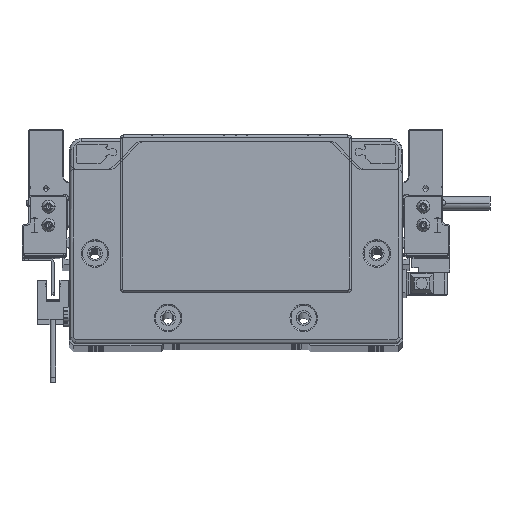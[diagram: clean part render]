
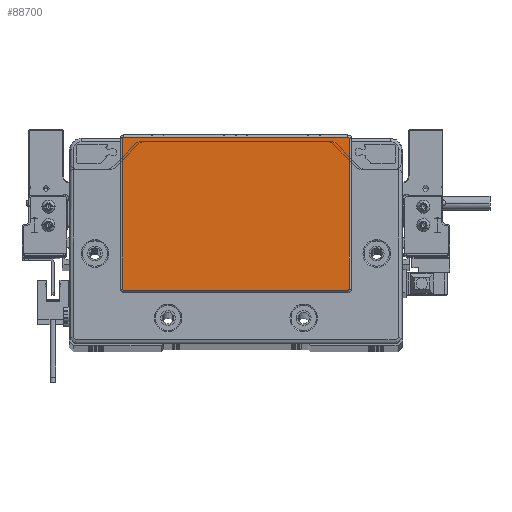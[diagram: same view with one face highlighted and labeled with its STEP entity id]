
A CAD part, top view. The second image highlights one B-rep face of the part: STEP entity #88700.
In plain terms, the highlighted planar face has unit normal (0, 0, 1) as drawn and (0, 0, -1) by its records, which use the part's own axes.
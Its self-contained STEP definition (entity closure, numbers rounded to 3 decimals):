
#2685 = LINE ( 'NONE', #66620, #69438 ) ;
#4043 = VERTEX_POINT ( 'NONE', #31423 ) ;
#5334 = VERTEX_POINT ( 'NONE', #97034 ) ;
#11721 = AXIS2_PLACEMENT_3D ( 'NONE', #86271, #47534, #70573 ) ;
#13782 = PLANE ( 'NONE',  #76260 ) ;
#15593 = CARTESIAN_POINT ( 'NONE',  ( 48.75, 44.3, -2. ) ) ;
#15833 = CARTESIAN_POINT ( 'NONE',  ( 49.25, -21.8, -2. ) ) ;
#16437 = EDGE_CURVE ( 'NONE', #76308, #101200, #93057, .T. ) ;
#16710 = CIRCLE ( 'NONE', #11721, 0.5 ) ;
#16849 = CARTESIAN_POINT ( 'NONE',  ( -48.75, -22.3, -2. ) ) ;
#17152 = VERTEX_POINT ( 'NONE', #69159 ) ;
#19245 = ORIENTED_EDGE ( 'NONE', *, *, #60964, .T. ) ;
#19308 = VECTOR ( 'NONE', #89668, 1000. ) ;
#19844 = CIRCLE ( 'NONE', #75070, 0.5 ) ;
#21232 = EDGE_CURVE ( 'NONE', #84171, #76308, #100953, .T. ) ;
#21795 = CARTESIAN_POINT ( 'NONE',  ( -49.25, 43.8, -2. ) ) ;
#27324 = AXIS2_PLACEMENT_3D ( 'NONE', #59041, #43851, #75815 ) ;
#29784 = CARTESIAN_POINT ( 'NONE',  ( 48.75, -21.8, -2. ) ) ;
#29889 = CARTESIAN_POINT ( 'NONE',  ( -49.25, 43.8, -2. ) ) ;
#31423 = CARTESIAN_POINT ( 'NONE',  ( 49.25, 43.8, -2. ) ) ;
#31650 = VECTOR ( 'NONE', #86242, 1000. ) ;
#32063 = EDGE_LOOP ( 'NONE', ( #36373, #19245, #33979, #76988, #71616, #48385, #80958, #101427 ) ) ;
#33979 = ORIENTED_EDGE ( 'NONE', *, *, #55153, .T. ) ;
#36279 = CARTESIAN_POINT ( 'NONE',  ( 49.25, -21.8, -2. ) ) ;
#36373 = ORIENTED_EDGE ( 'NONE', *, *, #88773, .T. ) ;
#37407 = AXIS2_PLACEMENT_3D ( 'NONE', #101540, #70647, #54450 ) ;
#38684 = DIRECTION ( 'NONE',  ( -1., 0., 0. ) ) ;
#43851 = DIRECTION ( 'NONE',  ( 0., 0., -1. ) ) ;
#47343 = FACE_OUTER_BOUND ( 'NONE', #32063, .T. ) ;
#47534 = DIRECTION ( 'NONE',  ( 0., 0., -1. ) ) ;
#47859 = LINE ( 'NONE', #15833, #19308 ) ;
#48075 = VERTEX_POINT ( 'NONE', #36279 ) ;
#48385 = ORIENTED_EDGE ( 'NONE', *, *, #48990, .T. ) ;
#48990 = EDGE_CURVE ( 'NONE', #101200, #62807, #16710, .T. ) ;
#54183 = CARTESIAN_POINT ( 'NONE',  ( 0., 0., -2. ) ) ;
#54450 = DIRECTION ( 'NONE',  ( -1., 0., 0. ) ) ;
#55153 = EDGE_CURVE ( 'NONE', #17152, #84171, #2685, .T. ) ;
#57008 = LINE ( 'NONE', #15593, #61580 ) ;
#58771 = DIRECTION ( 'NONE',  ( -1., 0., 0. ) ) ;
#59041 = CARTESIAN_POINT ( 'NONE',  ( 48.75, 43.8, -2. ) ) ;
#60964 = EDGE_CURVE ( 'NONE', #48075, #17152, #19844, .T. ) ;
#61580 = VECTOR ( 'NONE', #62818, 1000. ) ;
#62532 = DIRECTION ( 'NONE',  ( -1., 0., 0. ) ) ;
#62807 = VERTEX_POINT ( 'NONE', #74664 ) ;
#62818 = DIRECTION ( 'NONE',  ( 1., 0., 0. ) ) ;
#66620 = CARTESIAN_POINT ( 'NONE',  ( -48.75, -22.3, -2. ) ) ;
#69159 = CARTESIAN_POINT ( 'NONE',  ( 48.75, -22.3, -2. ) ) ;
#69194 = EDGE_CURVE ( 'NONE', #62807, #5334, #57008, .T. ) ;
#69438 = VECTOR ( 'NONE', #58771, 1000. ) ;
#70573 = DIRECTION ( 'NONE',  ( -1., 0., 0. ) ) ;
#70647 = DIRECTION ( 'NONE',  ( 0., 0., -1. ) ) ;
#71616 = ORIENTED_EDGE ( 'NONE', *, *, #16437, .T. ) ;
#72513 = CIRCLE ( 'NONE', #27324, 0.5 ) ;
#74664 = CARTESIAN_POINT ( 'NONE',  ( -48.75, 44.3, -2. ) ) ;
#75070 = AXIS2_PLACEMENT_3D ( 'NONE', #29784, #84288, #38684 ) ;
#75815 = DIRECTION ( 'NONE',  ( -1., 0., 0. ) ) ;
#76260 = AXIS2_PLACEMENT_3D ( 'NONE', #54183, #101783, #62532 ) ;
#76308 = VERTEX_POINT ( 'NONE', #77350 ) ;
#76988 = ORIENTED_EDGE ( 'NONE', *, *, #21232, .T. ) ;
#77350 = CARTESIAN_POINT ( 'NONE',  ( -49.25, -21.8, -2. ) ) ;
#80958 = ORIENTED_EDGE ( 'NONE', *, *, #69194, .T. ) ;
#84171 = VERTEX_POINT ( 'NONE', #16849 ) ;
#84288 = DIRECTION ( 'NONE',  ( 0., 0., -1. ) ) ;
#84991 = EDGE_CURVE ( 'NONE', #5334, #4043, #72513, .T. ) ;
#86242 = DIRECTION ( 'NONE',  ( 0., 1., 0. ) ) ;
#86271 = CARTESIAN_POINT ( 'NONE',  ( -48.75, 43.8, -2. ) ) ;
#88700 = ADVANCED_FACE ( 'NONE', ( #47343 ), #13782, .T. ) ;
#88773 = EDGE_CURVE ( 'NONE', #4043, #48075, #47859, .T. ) ;
#89668 = DIRECTION ( 'NONE',  ( 0., -1., 0. ) ) ;
#93057 = LINE ( 'NONE', #21795, #31650 ) ;
#97034 = CARTESIAN_POINT ( 'NONE',  ( 48.75, 44.3, -2. ) ) ;
#100953 = CIRCLE ( 'NONE', #37407, 0.5 ) ;
#101200 = VERTEX_POINT ( 'NONE', #29889 ) ;
#101427 = ORIENTED_EDGE ( 'NONE', *, *, #84991, .T. ) ;
#101540 = CARTESIAN_POINT ( 'NONE',  ( -48.75, -21.8, -2. ) ) ;
#101783 = DIRECTION ( 'NONE',  ( 0., 0., -1. ) ) ;
